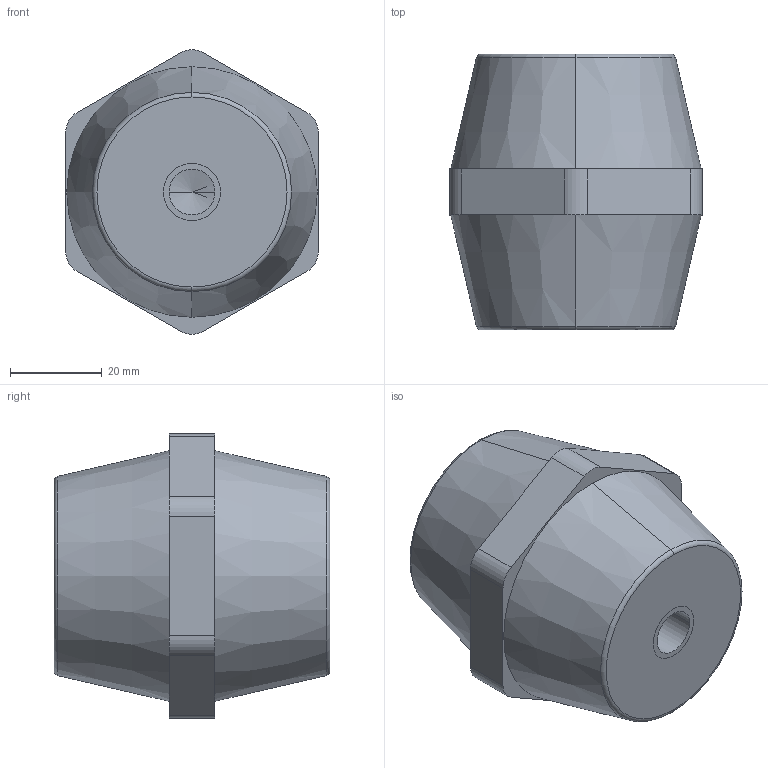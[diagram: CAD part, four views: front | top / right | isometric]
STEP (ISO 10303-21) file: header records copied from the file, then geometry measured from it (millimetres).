
FILE_DESCRIPTION (( 'STEP AP203' ), '1' );
FILE_NAME ('Isolatore 6067 55X60-M10.STEP', '2024-10-28T23:10:09', ( '' ), ( '' ), 'SwSTEP 2.0', 'SolidWorks 2020', '' );
FILE_SCHEMA (( 'CONFIG_CONTROL_DESIGN' ));
Length unit declared in the file: millimetre
Products named in the file (1): Isolatore 6067 55X60-M10
Bounding box: 55 x 60 x 61.96 mm (x, y, z)
Volume: 117253.5 mm3; surface area: 17980.2 mm2
Topology: 3 solids, 3 shells, 87 faces, 191 edges, 116 vertices
Faces by surface type: cylinder 43, plane 24, cone 16, torus 4
Entity records: 2408 total; most frequent: DIRECTION 457, CARTESIAN_POINT 383, ORIENTED_EDGE 358, AXIS2_PLACEMENT_3D 190, EDGE_CURVE 179, VERTEX_POINT 116, EDGE_LOOP 105, CIRCLE 102
